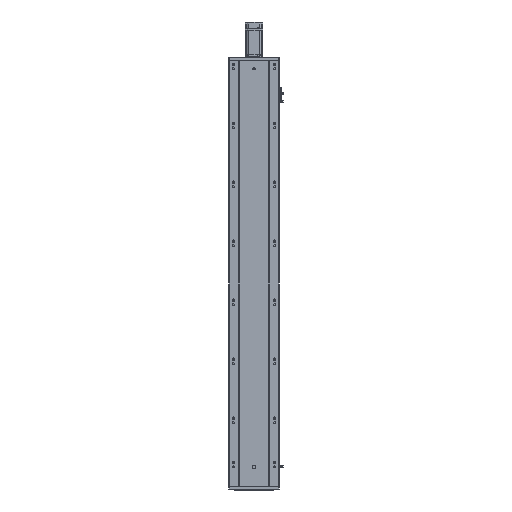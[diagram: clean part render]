
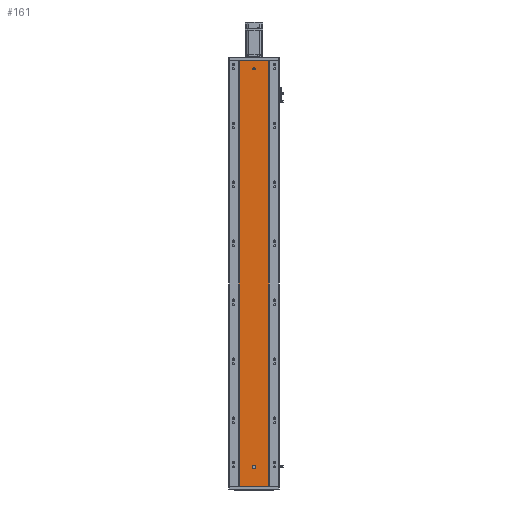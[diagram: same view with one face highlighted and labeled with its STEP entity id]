
A CAD part, front view. The second image highlights one B-rep face of the part: STEP entity #161.
In plain terms, the highlighted planar face has unit normal (0, -1, 0).
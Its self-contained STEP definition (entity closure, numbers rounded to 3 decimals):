
#161 = ADVANCED_FACE ( 'NONE', ( #26284, #68729, #22823 ), #46665, .F. ) ;
#231 = CARTESIAN_POINT ( 'NONE',  ( 86.97, 79.476, 1444. ) ) ;
#261 = CARTESIAN_POINT ( 'NONE',  ( 132.47, 79.476, 67.5 ) ) ;
#299 = DIRECTION ( 'NONE',  ( 0., -1., 0. ) ) ;
#558 = CARTESIAN_POINT ( 'NONE',  ( 86.97, 79.476, 1444. ) ) ;
#1482 = AXIS2_PLACEMENT_3D ( 'NONE', #33588, #22180, #22435 ) ;
#2344 = CARTESIAN_POINT ( 'NONE',  ( 0., 79.476, 0. ) ) ;
#2812 = DIRECTION ( 'NONE',  ( 1., 0., 0. ) ) ;
#3474 = B_SPLINE_CURVE_WITH_KNOTS ( 'NONE', 3,
 ( #558, #50997, #22982, #23705 ),
 .UNSPECIFIED., .F., .F.,
 ( 4, 4 ),
 ( 0., 1. ),
 .UNSPECIFIED. ) ;
#4464 = VERTEX_POINT ( 'NONE', #24246 ) ;
#4620 = EDGE_CURVE ( 'NONE', #56156, #10371, #30909, .T. ) ;
#4878 = B_SPLINE_CURVE_WITH_KNOTS ( 'NONE', 3,
 ( #10966, #16052, #59804, #43650 ),
 .UNSPECIFIED., .F., .F.,
 ( 4, 4 ),
 ( 0., 1. ),
 .UNSPECIFIED. ) ;
#4953 = AXIS2_PLACEMENT_3D ( 'NONE', #27797, #21985, #33134 ) ;
#5335 = CIRCLE ( 'NONE', #4953, 4. ) ;
#9580 = ORIENTED_EDGE ( 'NONE', *, *, #4620, .F. ) ;
#9942 = CARTESIAN_POINT ( 'NONE',  ( 136.47, 79.476, 64.5 ) ) ;
#10371 = VERTEX_POINT ( 'NONE', #17217 ) ;
#10966 = CARTESIAN_POINT ( 'NONE',  ( 185.97, 79.476, 1444. ) ) ;
#11547 = DIRECTION ( 'NONE',  ( 0., 0., -1. ) ) ;
#11822 = DIRECTION ( 'NONE',  ( 0., 0., -1. ) ) ;
#12845 = CARTESIAN_POINT ( 'NONE',  ( 140.47, 79.476, 64.5 ) ) ;
#15000 = VERTEX_POINT ( 'NONE', #231 ) ;
#16052 = CARTESIAN_POINT ( 'NONE',  ( 185.97, 79.476, 962.667 ) ) ;
#16891 = CARTESIAN_POINT ( 'NONE',  ( 185.97, 79.476, 0. ) ) ;
#17217 = CARTESIAN_POINT ( 'NONE',  ( 136.47, 79.476, 60.5 ) ) ;
#17471 = VERTEX_POINT ( 'NONE', #30769 ) ;
#18154 = AXIS2_PLACEMENT_3D ( 'NONE', #18769, #35528, #46173 ) ;
#18230 = LINE ( 'NONE', #20036, #21706 ) ;
#18769 = CARTESIAN_POINT ( 'NONE',  ( 0., 79.476, 1444. ) ) ;
#20036 = CARTESIAN_POINT ( 'NONE',  ( 0., 79.476, 1444. ) ) ;
#21107 = ORIENTED_EDGE ( 'NONE', *, *, #68314, .F. ) ;
#21706 = VECTOR ( 'NONE', #26097, 1000. ) ;
#21985 = DIRECTION ( 'NONE',  ( 0., -1., 0. ) ) ;
#22001 = EDGE_LOOP ( 'NONE', ( #21107, #45507 ) ) ;
#22180 = DIRECTION ( 'NONE',  ( 0., -1., 0. ) ) ;
#22435 = DIRECTION ( 'NONE',  ( 0., 0., -1. ) ) ;
#22823 = FACE_OUTER_BOUND ( 'NONE', #22933, .T. ) ;
#22933 = EDGE_LOOP ( 'NONE', ( #47179, #43039, #50567, #64197 ) ) ;
#22982 = CARTESIAN_POINT ( 'NONE',  ( 86.97, 79.476, 481.333 ) ) ;
#23196 = DIRECTION ( 'NONE',  ( 0., 0., 1. ) ) ;
#23450 = VERTEX_POINT ( 'NONE', #59860 ) ;
#23653 = VECTOR ( 'NONE', #11547, 1000. ) ;
#23705 = CARTESIAN_POINT ( 'NONE',  ( 86.97, 79.476, 0. ) ) ;
#24246 = CARTESIAN_POINT ( 'NONE',  ( 136.47, 79.476, 1412. ) ) ;
#26097 = DIRECTION ( 'NONE',  ( 1., 0., 0. ) ) ;
#26284 = FACE_BOUND ( 'NONE', #44387, .T. ) ;
#26512 = CARTESIAN_POINT ( 'NONE',  ( 132.47, 79.476, 64.5 ) ) ;
#27797 = CARTESIAN_POINT ( 'NONE',  ( 136.47, 79.476, 64.5 ) ) ;
#30239 = EDGE_CURVE ( 'NONE', #15000, #71126, #18230, .T. ) ;
#30769 = CARTESIAN_POINT ( 'NONE',  ( 140.47, 79.476, 67.5 ) ) ;
#30909 = CIRCLE ( 'NONE', #50646, 4. ) ;
#33134 = DIRECTION ( 'NONE',  ( 0., 0., -1. ) ) ;
#33489 = CIRCLE ( 'NONE', #1482, 4. ) ;
#33588 = CARTESIAN_POINT ( 'NONE',  ( 136.47, 79.476, 67.5 ) ) ;
#34391 = EDGE_CURVE ( 'NONE', #17471, #55723, #33489, .T. ) ;
#34905 = EDGE_CURVE ( 'NONE', #71126, #39774, #4878, .T. ) ;
#35528 = DIRECTION ( 'NONE',  ( 0., 1., 0. ) ) ;
#36106 = VERTEX_POINT ( 'NONE', #55777 ) ;
#36457 = AXIS2_PLACEMENT_3D ( 'NONE', #47431, #36804, #69438 ) ;
#36804 = DIRECTION ( 'NONE',  ( 0., -1., 0. ) ) ;
#37230 = EDGE_CURVE ( 'NONE', #15000, #36106, #3474, .T. ) ;
#37907 = VERTEX_POINT ( 'NONE', #12845 ) ;
#38236 = EDGE_CURVE ( 'NONE', #10371, #37907, #5335, .T. ) ;
#39286 = ORIENTED_EDGE ( 'NONE', *, *, #50916, .F. ) ;
#39417 = LINE ( 'NONE', #2344, #67072 ) ;
#39774 = VERTEX_POINT ( 'NONE', #16891 ) ;
#40105 = LINE ( 'NONE', #45212, #41837 ) ;
#41277 = AXIS2_PLACEMENT_3D ( 'NONE', #69785, #58589, #42217 ) ;
#41837 = VECTOR ( 'NONE', #23196, 1000. ) ;
#42217 = DIRECTION ( 'NONE',  ( 0., 0., -1. ) ) ;
#43039 = ORIENTED_EDGE ( 'NONE', *, *, #34905, .F. ) ;
#43650 = CARTESIAN_POINT ( 'NONE',  ( 185.97, 79.476, 0. ) ) ;
#44387 = EDGE_LOOP ( 'NONE', ( #9580, #39286, #70141, #65626, #65400 ) ) ;
#44680 = CIRCLE ( 'NONE', #36457, 4. ) ;
#45212 = CARTESIAN_POINT ( 'NONE',  ( 140.47, 79.476, 67.5 ) ) ;
#45507 = ORIENTED_EDGE ( 'NONE', *, *, #49055, .F. ) ;
#46173 = DIRECTION ( 'NONE',  ( 0., 0., 1. ) ) ;
#46665 = PLANE ( 'NONE',  #18154 ) ;
#47179 = ORIENTED_EDGE ( 'NONE', *, *, #68313, .T. ) ;
#47431 = CARTESIAN_POINT ( 'NONE',  ( 136.47, 79.476, 1416. ) ) ;
#49055 = EDGE_CURVE ( 'NONE', #23450, #4464, #44680, .T. ) ;
#50567 = ORIENTED_EDGE ( 'NONE', *, *, #30239, .F. ) ;
#50646 = AXIS2_PLACEMENT_3D ( 'NONE', #9942, #299, #11822 ) ;
#50916 = EDGE_CURVE ( 'NONE', #55723, #56156, #67810, .T. ) ;
#50997 = CARTESIAN_POINT ( 'NONE',  ( 86.97, 79.476, 962.667 ) ) ;
#55723 = VERTEX_POINT ( 'NONE', #70407 ) ;
#55777 = CARTESIAN_POINT ( 'NONE',  ( 86.97, 79.476, 0. ) ) ;
#56156 = VERTEX_POINT ( 'NONE', #26512 ) ;
#58589 = DIRECTION ( 'NONE',  ( 0., -1., 0. ) ) ;
#59804 = CARTESIAN_POINT ( 'NONE',  ( 185.97, 79.476, 481.333 ) ) ;
#59860 = CARTESIAN_POINT ( 'NONE',  ( 136.47, 79.476, 1420. ) ) ;
#60059 = CARTESIAN_POINT ( 'NONE',  ( 185.97, 79.476, 1444. ) ) ;
#62767 = CIRCLE ( 'NONE', #41277, 4. ) ;
#64197 = ORIENTED_EDGE ( 'NONE', *, *, #37230, .T. ) ;
#65400 = ORIENTED_EDGE ( 'NONE', *, *, #38236, .F. ) ;
#65626 = ORIENTED_EDGE ( 'NONE', *, *, #69347, .F. ) ;
#67072 = VECTOR ( 'NONE', #2812, 1000. ) ;
#67810 = LINE ( 'NONE', #261, #23653 ) ;
#68313 = EDGE_CURVE ( 'NONE', #36106, #39774, #39417, .T. ) ;
#68314 = EDGE_CURVE ( 'NONE', #4464, #23450, #62767, .T. ) ;
#68729 = FACE_BOUND ( 'NONE', #22001, .T. ) ;
#69347 = EDGE_CURVE ( 'NONE', #37907, #17471, #40105, .T. ) ;
#69438 = DIRECTION ( 'NONE',  ( 0., 0., -1. ) ) ;
#69785 = CARTESIAN_POINT ( 'NONE',  ( 136.47, 79.476, 1416. ) ) ;
#70141 = ORIENTED_EDGE ( 'NONE', *, *, #34391, .F. ) ;
#70407 = CARTESIAN_POINT ( 'NONE',  ( 132.47, 79.476, 67.5 ) ) ;
#71126 = VERTEX_POINT ( 'NONE', #60059 ) ;
